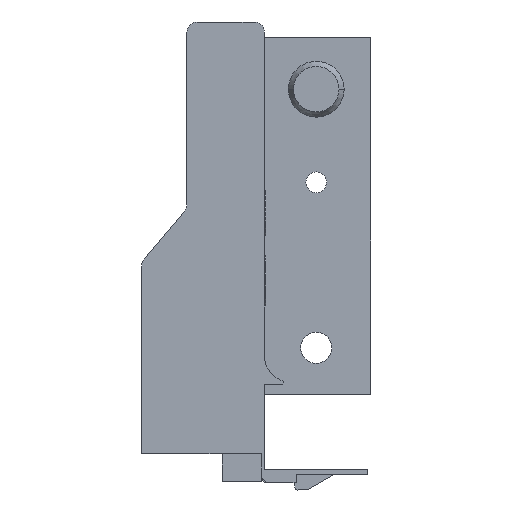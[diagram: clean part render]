
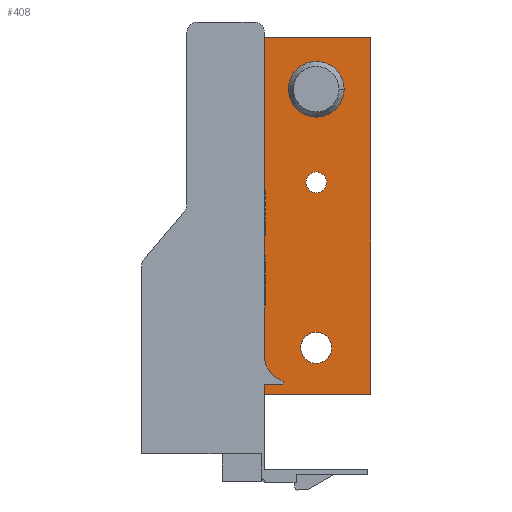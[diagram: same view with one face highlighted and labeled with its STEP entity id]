
A CAD part, front view. The second image highlights one B-rep face of the part: STEP entity #408.
In plain terms, the highlighted planar face has unit normal (0, -1, 0).
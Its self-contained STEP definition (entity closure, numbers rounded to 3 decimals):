
#106 = EDGE_LOOP ( 'NONE', ( #1072, #1038, #1198, #1268, #995, #1157 ) ) ;
#116 = EDGE_LOOP ( 'NONE', ( #1061, #1286 ) ) ;
#137 = EDGE_LOOP ( 'NONE', ( #1192, #1224 ) ) ;
#149 = EDGE_LOOP ( 'NONE', ( #976, #1334 ) ) ;
#408 = ADVANCED_FACE ( 'NONE', ( #1228, #1008, #1150, #1299 ), #1504, .T. ) ;
#543 = EDGE_CURVE ( 'NONE', #1350, #1364, #931, .T. ) ;
#544 = EDGE_CURVE ( 'NONE', #1361, #1362, #925, .T. ) ;
#545 = EDGE_CURVE ( 'NONE', #1358, #1369, #924, .T. ) ;
#546 = EDGE_CURVE ( 'NONE', #1357, #1356, #922, .T. ) ;
#547 = EDGE_CURVE ( 'NONE', #1464, #1337, #923, .T. ) ;
#548 = EDGE_CURVE ( 'NONE', #1466, #1352, #920, .T. ) ;
#549 = EDGE_CURVE ( 'NONE', #1466, #1464, #918, .T. ) ;
#693 = EDGE_CURVE ( 'NONE', #1337, #1364, #2626, .T. ) ;
#699 = EDGE_CURVE ( 'NONE', #1352, #1350, #2615, .T. ) ;
#704 = EDGE_CURVE ( 'NONE', #1356, #1357, #2604, .T. ) ;
#719 = EDGE_CURVE ( 'NONE', #1362, #1361, #2577, .T. ) ;
#722 = EDGE_CURVE ( 'NONE', #1369, #1358, #2572, .T. ) ;
#736 = AXIS2_PLACEMENT_3D ( 'NONE', #1505, #1506, #1507 ) ;
#831 = AXIS2_PLACEMENT_3D ( 'NONE', #1938, #1939, #1940 ) ;
#832 = AXIS2_PLACEMENT_3D ( 'NONE', #1941, #1942, #1943 ) ;
#833 = AXIS2_PLACEMENT_3D ( 'NONE', #1944, #1945, #1946 ) ;
#865 = AXIS2_PLACEMENT_3D ( 'NONE', #2313, #2314, #2315 ) ;
#872 = AXIS2_PLACEMENT_3D ( 'NONE', #2350, #2351, #2352 ) ;
#874 = AXIS2_PLACEMENT_3D ( 'NONE', #2358, #2359, #2360 ) ;
#917 = VECTOR ( 'NONE', #1952, 1000. ) ;
#918 = LINE ( 'NONE', #1951, #917 ) ;
#919 = VECTOR ( 'NONE', #1950, 1000. ) ;
#920 = LINE ( 'NONE', #1949, #919 ) ;
#921 = VECTOR ( 'NONE', #1948, 1000. ) ;
#922 = CIRCLE ( 'NONE', #833, 2. ) ;
#923 = LINE ( 'NONE', #1947, #921 ) ;
#924 = CIRCLE ( 'NONE', #832, 3. ) ;
#925 = CIRCLE ( 'NONE', #831, 5.4 ) ;
#930 = VECTOR ( 'NONE', #1937, 1000. ) ;
#931 = LINE ( 'NONE', #1936, #930 ) ;
#976 = ORIENTED_EDGE ( 'NONE', *, *, #704, .F. ) ;
#995 = ORIENTED_EDGE ( 'NONE', *, *, #548, .F. ) ;
#1008 = FACE_BOUND ( 'NONE', #137, .T. ) ;
#1038 = ORIENTED_EDGE ( 'NONE', *, *, #693, .T. ) ;
#1061 = ORIENTED_EDGE ( 'NONE', *, *, #719, .T. ) ;
#1072 = ORIENTED_EDGE ( 'NONE', *, *, #547, .T. ) ;
#1150 = FACE_BOUND ( 'NONE', #149, .T. ) ;
#1157 = ORIENTED_EDGE ( 'NONE', *, *, #549, .T. ) ;
#1192 = ORIENTED_EDGE ( 'NONE', *, *, #722, .F. ) ;
#1198 = ORIENTED_EDGE ( 'NONE', *, *, #543, .F. ) ;
#1224 = ORIENTED_EDGE ( 'NONE', *, *, #545, .F. ) ;
#1228 = FACE_BOUND ( 'NONE', #116, .T. ) ;
#1268 = ORIENTED_EDGE ( 'NONE', *, *, #699, .F. ) ;
#1286 = ORIENTED_EDGE ( 'NONE', *, *, #544, .T. ) ;
#1299 = FACE_OUTER_BOUND ( 'NONE', #106, .T. ) ;
#1334 = ORIENTED_EDGE ( 'NONE', *, *, #546, .F. ) ;
#1337 = VERTEX_POINT ( 'NONE', #2381 ) ;
#1350 = VERTEX_POINT ( 'NONE', #2394 ) ;
#1352 = VERTEX_POINT ( 'NONE', #2396 ) ;
#1356 = VERTEX_POINT ( 'NONE', #2400 ) ;
#1357 = VERTEX_POINT ( 'NONE', #2401 ) ;
#1358 = VERTEX_POINT ( 'NONE', #2402 ) ;
#1361 = VERTEX_POINT ( 'NONE', #2405 ) ;
#1362 = VERTEX_POINT ( 'NONE', #2406 ) ;
#1364 = VERTEX_POINT ( 'NONE', #2408 ) ;
#1369 = VERTEX_POINT ( 'NONE', #2413 ) ;
#1464 = VERTEX_POINT ( 'NONE', #2508 ) ;
#1466 = VERTEX_POINT ( 'NONE', #2510 ) ;
#1504 = PLANE ( 'NONE',  #736 ) ;
#1505 = CARTESIAN_POINT ( 'NONE',  ( 21.1, 297.2, 27. ) ) ;
#1506 = DIRECTION ( 'NONE',  ( 0., -1., 0. ) ) ;
#1507 = DIRECTION ( 'NONE',  ( -1., 0., 0. ) ) ;
#1936 = CARTESIAN_POINT ( 'NONE',  ( 21.1, 297.2, 27. ) ) ;
#1937 = DIRECTION ( 'NONE',  ( 0., 0., 1. ) ) ;
#1938 = CARTESIAN_POINT ( 'NONE',  ( 31.5, 297.2, 57. ) ) ;
#1939 = DIRECTION ( 'NONE',  ( 0., 1., 0. ) ) ;
#1940 = DIRECTION ( 'NONE',  ( -1., 0., 0. ) ) ;
#1941 = CARTESIAN_POINT ( 'NONE',  ( 31.5, 297.2, 7. ) ) ;
#1942 = DIRECTION ( 'NONE',  ( 0., -1., 0. ) ) ;
#1943 = DIRECTION ( 'NONE',  ( -1., 0., 0. ) ) ;
#1944 = CARTESIAN_POINT ( 'NONE',  ( 31.5, 297.2, 39. ) ) ;
#1945 = DIRECTION ( 'NONE',  ( 0., -1., 0. ) ) ;
#1946 = DIRECTION ( 'NONE',  ( -1., 0., 0. ) ) ;
#1947 = CARTESIAN_POINT ( 'NONE',  ( 42., 297.2, 27. ) ) ;
#1948 = DIRECTION ( 'NONE',  ( 0., 0., 1. ) ) ;
#1949 = CARTESIAN_POINT ( 'NONE',  ( 21.5, 297.2, -2. ) ) ;
#1950 = DIRECTION ( 'NONE',  ( 0., 0., 1. ) ) ;
#1951 = CARTESIAN_POINT ( 'NONE',  ( 21.5, 297.2, -2. ) ) ;
#1952 = DIRECTION ( 'NONE',  ( 1., 0., 0. ) ) ;
#2288 = CARTESIAN_POINT ( 'NONE',  ( 21.1, 297.2, 67. ) ) ;
#2289 = DIRECTION ( 'NONE',  ( -1., 0., 0. ) ) ;
#2302 = CARTESIAN_POINT ( 'NONE',  ( 21.1, 297.2, 27. ) ) ;
#2303 = DIRECTION ( 'NONE',  ( -1., 0., 0. ) ) ;
#2313 = CARTESIAN_POINT ( 'NONE',  ( 31.5, 297.2, 39. ) ) ;
#2314 = DIRECTION ( 'NONE',  ( 0., -1., 0. ) ) ;
#2315 = DIRECTION ( 'NONE',  ( -1., 0., 0. ) ) ;
#2350 = CARTESIAN_POINT ( 'NONE',  ( 31.5, 297.2, 57. ) ) ;
#2351 = DIRECTION ( 'NONE',  ( 0., 1., 0. ) ) ;
#2352 = DIRECTION ( 'NONE',  ( -1., 0., 0. ) ) ;
#2358 = CARTESIAN_POINT ( 'NONE',  ( 31.5, 297.2, 7. ) ) ;
#2359 = DIRECTION ( 'NONE',  ( 0., -1., 0. ) ) ;
#2360 = DIRECTION ( 'NONE',  ( -1., 0., 0. ) ) ;
#2381 = CARTESIAN_POINT ( 'NONE',  ( 42., 297.2, 67. ) ) ;
#2394 = CARTESIAN_POINT ( 'NONE',  ( 21.1, 297.2, 27. ) ) ;
#2396 = CARTESIAN_POINT ( 'NONE',  ( 21.5, 297.2, 27. ) ) ;
#2400 = CARTESIAN_POINT ( 'NONE',  ( 33.5, 297.2, 39. ) ) ;
#2401 = CARTESIAN_POINT ( 'NONE',  ( 29.5, 297.2, 39. ) ) ;
#2402 = CARTESIAN_POINT ( 'NONE',  ( 28.5, 297.2, 7. ) ) ;
#2405 = CARTESIAN_POINT ( 'NONE',  ( 26.1, 297.2, 57. ) ) ;
#2406 = CARTESIAN_POINT ( 'NONE',  ( 36.9, 297.2, 57. ) ) ;
#2408 = CARTESIAN_POINT ( 'NONE',  ( 21.1, 297.2, 67. ) ) ;
#2413 = CARTESIAN_POINT ( 'NONE',  ( 34.5, 297.2, 7. ) ) ;
#2508 = CARTESIAN_POINT ( 'NONE',  ( 42., 297.2, -2. ) ) ;
#2510 = CARTESIAN_POINT ( 'NONE',  ( 21.5, 297.2, -2. ) ) ;
#2572 = CIRCLE ( 'NONE', #874, 3. ) ;
#2577 = CIRCLE ( 'NONE', #872, 5.4 ) ;
#2604 = CIRCLE ( 'NONE', #865, 2. ) ;
#2613 = VECTOR ( 'NONE', #2303, 1000. ) ;
#2615 = LINE ( 'NONE', #2302, #2613 ) ;
#2625 = VECTOR ( 'NONE', #2289, 1000. ) ;
#2626 = LINE ( 'NONE', #2288, #2625 ) ;
